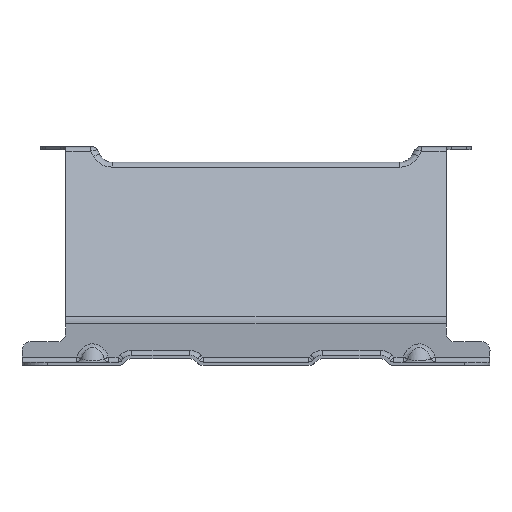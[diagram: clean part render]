
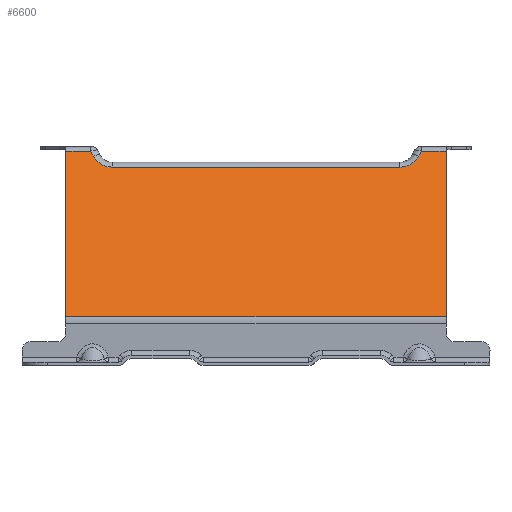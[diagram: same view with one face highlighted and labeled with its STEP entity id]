
A CAD part, left-side view. The second image highlights one B-rep face of the part: STEP entity #6600.
In plain terms, the highlighted planar face has unit normal (-0.906, 0, 0.422).
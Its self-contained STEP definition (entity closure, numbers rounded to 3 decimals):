
#6586=AXIS2_PLACEMENT_3D('Plane Axis2P3D',#6583,#6584,#6585) ;
#635=CARTESIAN_POINT('Vertex',(1032.935,-471.979,49.008)) ;
#638=CARTESIAN_POINT('Line Origine',(1055.794,-471.979,98.06)) ;
#642=CARTESIAN_POINT('Vertex',(1078.653,-471.979,147.112)) ;
#1644=CARTESIAN_POINT('Vertex',(1078.653,-697.979,147.112)) ;
#1647=CARTESIAN_POINT('Line Origine',(1055.794,-697.979,98.06)) ;
#1651=CARTESIAN_POINT('Vertex',(1032.935,-697.979,49.008)) ;
#1684=CARTESIAN_POINT('Line Origine',(1032.935,-584.979,49.008)) ;
#2459=CARTESIAN_POINT('Line Origine',(1078.653,-584.979,147.112)) ;
#2463=CARTESIAN_POINT('Vertex',(1078.653,-486.73,147.112)) ;
#3558=CARTESIAN_POINT('Vertex',(1078.653,-683.242,147.112)) ;
#3561=CARTESIAN_POINT('Line Origine',(1078.653,-584.979,147.112)) ;
#4291=CARTESIAN_POINT('Vertex',(1077.348,-681.626,144.312)) ;
#4294=CARTESIAN_POINT('Line Origine',(1056.024,-655.207,98.554)) ;
#4410=CARTESIAN_POINT('Vertex',(1074.319,-670.367,137.812)) ;
#4414=CARTESIAN_POINT('Control Point',(1077.348,-681.626,144.312)) ;
#4415=CARTESIAN_POINT('Control Point',(1076.893,-681.061,143.335)) ;
#4416=CARTESIAN_POINT('Control Point',(1076.461,-680.384,142.407)) ;
#4417=CARTESIAN_POINT('Control Point',(1076.058,-679.596,141.544)) ;
#4418=CARTESIAN_POINT('Control Point',(1075.351,-677.856,140.027)) ;
#4419=CARTESIAN_POINT('Control Point',(1074.826,-675.764,138.9)) ;
#4420=CARTESIAN_POINT('Control Point',(1074.622,-674.674,138.461)) ;
#4421=CARTESIAN_POINT('Control Point',(1074.426,-673.145,138.041)) ;
#4422=CARTESIAN_POINT('Control Point',(1074.341,-671.568,137.858)) ;
#4423=CARTESIAN_POINT('Control Point',(1074.327,-671.168,137.828)) ;
#4424=CARTESIAN_POINT('Control Point',(1074.319,-670.768,137.812)) ;
#4425=CARTESIAN_POINT('Control Point',(1074.319,-670.367,137.812)) ;
#4450=CARTESIAN_POINT('Vertex',(1074.319,-499.605,137.812)) ;
#4453=CARTESIAN_POINT('Line Origine',(1074.319,-584.979,137.812)) ;
#4570=CARTESIAN_POINT('Vertex',(1077.348,-488.346,144.312)) ;
#4574=CARTESIAN_POINT('Control Point',(1074.319,-499.605,137.812)) ;
#4575=CARTESIAN_POINT('Control Point',(1074.319,-498.446,137.812)) ;
#4576=CARTESIAN_POINT('Control Point',(1074.379,-497.288,137.941)) ;
#4577=CARTESIAN_POINT('Control Point',(1074.5,-496.156,138.199)) ;
#4578=CARTESIAN_POINT('Control Point',(1074.858,-493.943,138.969)) ;
#4579=CARTESIAN_POINT('Control Point',(1075.42,-492.,140.173)) ;
#4580=CARTESIAN_POINT('Control Point',(1075.752,-491.097,140.885)) ;
#4581=CARTESIAN_POINT('Control Point',(1076.266,-489.97,141.99)) ;
#4582=CARTESIAN_POINT('Control Point',(1076.838,-489.041,143.217)) ;
#4583=CARTESIAN_POINT('Control Point',(1077.005,-488.793,143.574)) ;
#4584=CARTESIAN_POINT('Control Point',(1077.175,-488.562,143.94)) ;
#4585=CARTESIAN_POINT('Control Point',(1077.348,-488.346,144.312)) ;
#4611=CARTESIAN_POINT('Line Origine',(1056.024,-514.765,98.554)) ;
#6583=CARTESIAN_POINT('Axis2P3D Location',(1031.999,-584.979,47.)) ;
#639=DIRECTION('Vector Direction',(0.422,0.,0.906)) ;
#1648=DIRECTION('Vector Direction',(0.422,0.,0.906)) ;
#1685=DIRECTION('Vector Direction',(0.,1.,0.)) ;
#2460=DIRECTION('Vector Direction',(0.,1.,0.)) ;
#3562=DIRECTION('Vector Direction',(0.,1.,0.)) ;
#4295=DIRECTION('Vector Direction',(-0.374,0.464,-0.803)) ;
#4454=DIRECTION('Vector Direction',(0.,1.,0.)) ;
#4612=DIRECTION('Vector Direction',(0.374,0.464,0.803)) ;
#6584=DIRECTION('Axis2P3D Direction',(-0.906,0.,0.422)) ;
#6585=DIRECTION('Axis2P3D XDirection',(0.422,0.,0.906)) ;
#640=VECTOR('Line Direction',#639,1.) ;
#1649=VECTOR('Line Direction',#1648,1.) ;
#1686=VECTOR('Line Direction',#1685,1.) ;
#2461=VECTOR('Line Direction',#2460,1.) ;
#3563=VECTOR('Line Direction',#3562,1.) ;
#4296=VECTOR('Line Direction',#4295,1.) ;
#4455=VECTOR('Line Direction',#4454,1.) ;
#4613=VECTOR('Line Direction',#4612,1.) ;
#6589=ORIENTED_EDGE('',*,*,#1653,.T.) ;
#6590=ORIENTED_EDGE('',*,*,#3565,.T.) ;
#6591=ORIENTED_EDGE('',*,*,#4298,.T.) ;
#6592=ORIENTED_EDGE('',*,*,#4426,.T.) ;
#6593=ORIENTED_EDGE('',*,*,#4457,.T.) ;
#6594=ORIENTED_EDGE('',*,*,#4586,.T.) ;
#6595=ORIENTED_EDGE('',*,*,#4615,.T.) ;
#6596=ORIENTED_EDGE('',*,*,#2465,.T.) ;
#6597=ORIENTED_EDGE('',*,*,#644,.F.) ;
#6598=ORIENTED_EDGE('',*,*,#1688,.F.) ;
#6600=ADVANCED_FACE('\X2\51E04F554F53\X0\.2',(#6599),#6587,.T.) ;
#4413=B_SPLINE_CURVE_WITH_KNOTS('',5,(#4414,#4415,#4416,#4417,#4418,#4419,#4420,#4421,#4422,#4423,#4424,#4425),.UNSPECIFIED.,.F.,.U.,(6,3,3,6),(42.934,50.3,57.279,59.631),.UNSPECIFIED.) ;
#4573=B_SPLINE_CURVE_WITH_KNOTS('',5,(#4574,#4575,#4576,#4577,#4578,#4579,#4580,#4581,#4582,#4583,#4584,#4585),.UNSPECIFIED.,.F.,.U.,(6,3,3,6),(43.43,50.231,57.32,60.127),.UNSPECIFIED.) ;
#644=EDGE_CURVE('',#636,#643,#641,.T.) ;
#1653=EDGE_CURVE('',#1652,#1645,#1650,.T.) ;
#1688=EDGE_CURVE('',#1652,#636,#1687,.T.) ;
#2465=EDGE_CURVE('',#2464,#643,#2462,.T.) ;
#3565=EDGE_CURVE('',#1645,#3559,#3564,.T.) ;
#4298=EDGE_CURVE('',#3559,#4292,#4297,.T.) ;
#4426=EDGE_CURVE('',#4292,#4411,#4413,.T.) ;
#4457=EDGE_CURVE('',#4411,#4451,#4456,.T.) ;
#4586=EDGE_CURVE('',#4451,#4571,#4573,.T.) ;
#4615=EDGE_CURVE('',#4571,#2464,#4614,.T.) ;
#6588=EDGE_LOOP('',(#6589,#6590,#6591,#6592,#6593,#6594,#6595,#6596,#6597,#6598)) ;
#6599=FACE_OUTER_BOUND('',#6588,.T.) ;
#641=LINE('Line',#638,#640) ;
#1650=LINE('Line',#1647,#1649) ;
#1687=LINE('Line',#1684,#1686) ;
#2462=LINE('Line',#2459,#2461) ;
#3564=LINE('Line',#3561,#3563) ;
#4297=LINE('Line',#4294,#4296) ;
#4456=LINE('Line',#4453,#4455) ;
#4614=LINE('Line',#4611,#4613) ;
#6587=PLANE('Plane',#6586) ;
#636=VERTEX_POINT('',#635) ;
#643=VERTEX_POINT('',#642) ;
#1645=VERTEX_POINT('',#1644) ;
#1652=VERTEX_POINT('',#1651) ;
#2464=VERTEX_POINT('',#2463) ;
#3559=VERTEX_POINT('',#3558) ;
#4292=VERTEX_POINT('',#4291) ;
#4411=VERTEX_POINT('',#4410) ;
#4451=VERTEX_POINT('',#4450) ;
#4571=VERTEX_POINT('',#4570) ;
